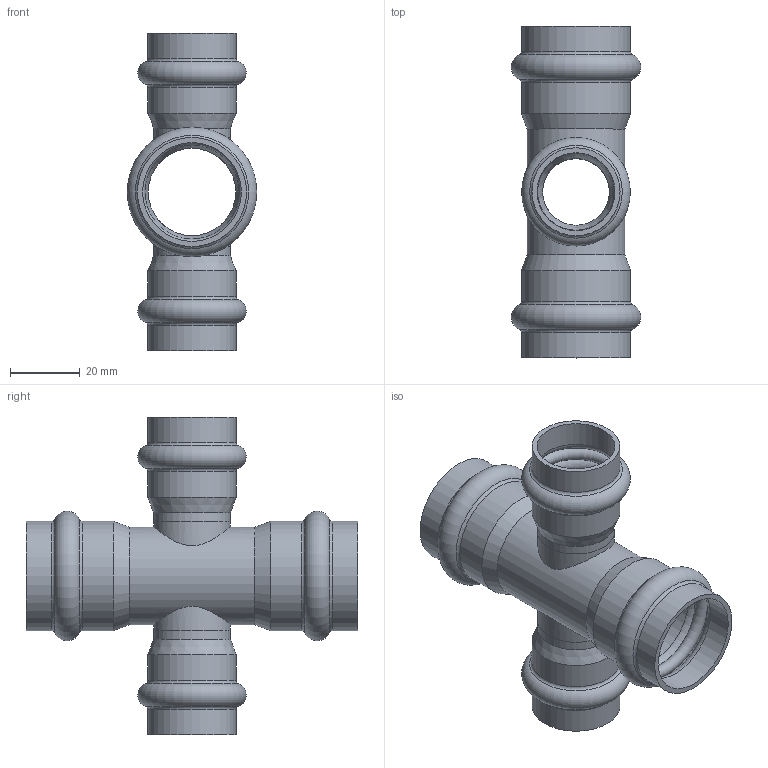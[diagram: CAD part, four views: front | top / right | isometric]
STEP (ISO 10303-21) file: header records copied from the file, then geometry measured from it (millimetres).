
FILE_DESCRIPTION(('STEP AP203'), '1');
FILE_NAME('ÂÐ.302669.011.000 ÑÁ - VTi.941.I.002822 Êðåñò. Äó28-22', '2024-02-29T12:43:47', ('User'), ('Vesta'), 'C3D Converter', 'C3D Toolkit', '');
FILE_SCHEMA(('CONFIG_CONTROL_DESIGN'));
Length unit declared in the file: millimetre
Products named in the file (5): ВР.302669.011.000 СБ; ВР.735542.008-01; ВР.735542.003
Assembly tree (7 placements, depth 2):
  ВР.302669.011.000 СБ
    ВР.735542.008-01
    ВР.735542.003  x2
    (unnamed)  x2
    (unnamed)  x2
Bounding box: 37.1 x 95 x 91 mm (x, y, z)
Volume: 24019.6 mm3; surface area: 32836.2 mm2
Topology: 7 solids, 7 shells, 70 faces, 138 edges, 74 vertices
Faces by surface type: torus 28, cylinder 26, plane 8, cone 8
Full cylindrical faces by diameter (mm): 19.1 x4, 22 x4, 22.3 x4, 25.04 x1, 25.2 x4, 28 x1, 28.3 x4, 31.26 x4
Entity records: 2844 total; most frequent: CARTESIAN_POINT 1175, DIRECTION 216, AXIS2_PLACEMENT_3D 108, ORIENTED_EDGE 108, EDGE_LOOP 104, FACE_OUTER_BOUND 86, COLOUR_RGB 56, FILL_AREA_STYLE_COLOUR 56
